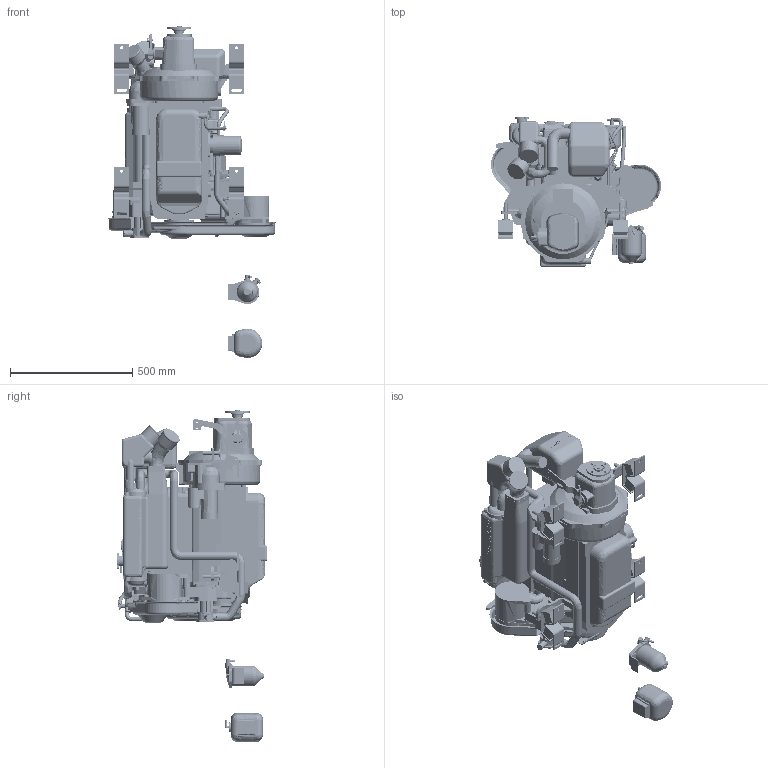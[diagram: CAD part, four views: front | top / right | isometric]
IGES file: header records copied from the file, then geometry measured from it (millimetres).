
Start section: Elysium IGES Interface
Global section: file name: C:\_OH CADenZO\Yanmar\Final Drawings R2009\JH5E-serie\4JH5E-serie\3D Drawing Workfile\JH5_4JH5ExKM35P_R2009-01.igs; native system: CoCreate Modeling 16.00D  29-May-2009; preprocessor: CoCreate IGES_3D V2.2; author: Unknown; organization: Unknown; date: 20100312.135406; units: millimetre
Bounding box: 695.43 x 613.6 x 1358.27 mm (x, y, z)
Volume: 93593093.1 mm3; surface area: 6223432.7 mm2
Topology: 49 solids, 49 shells, 4879 faces, 12965 edges, 8322 vertices
Faces by surface type: bspline 4879
